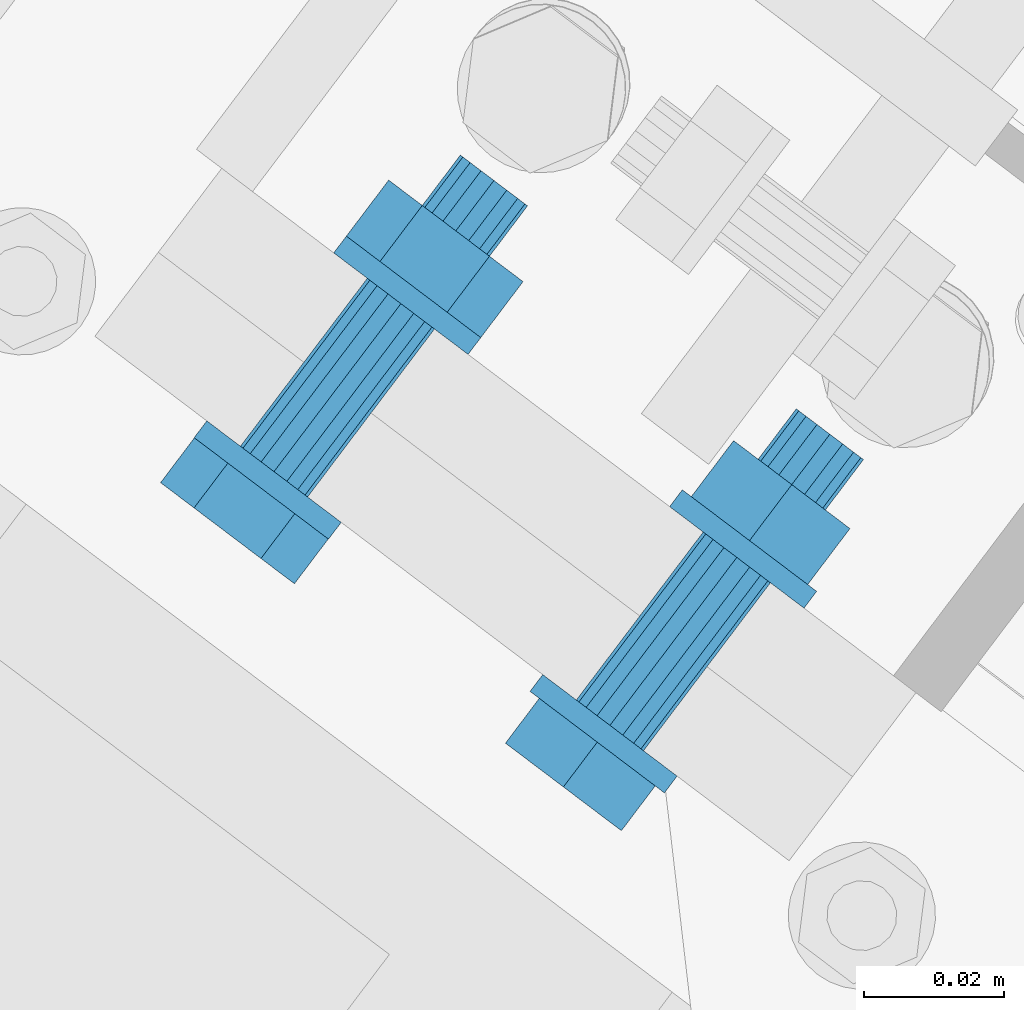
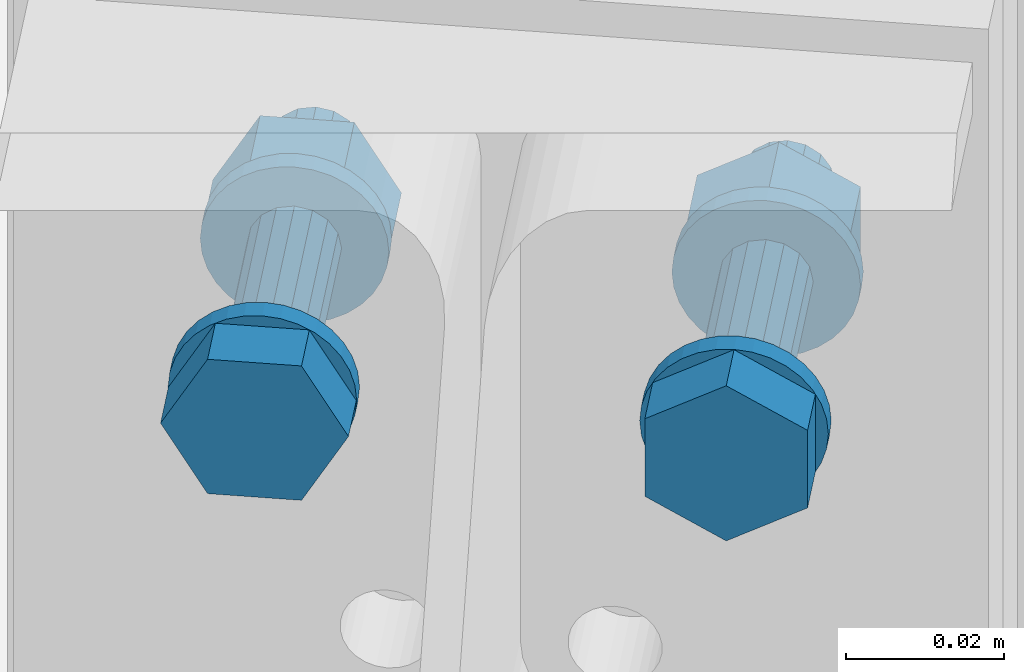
# One storey, part 371 of 476: 2 mechanical fasteners.
"""IFC2X3 building model written with IfcOpenShell, lengths in millimetres."""

from ifc_helpers import new_model, entity, si_unit, converted_unit, origin_with_axes, place, context, project, spatial, faceted_brep, element, save


model = new_model("IFC2X3")

# Units and contexts
model_context = context("Model", 3, precision=1e-09, world=origin_with_axes())
ifc_project = project(units=[si_unit("LENGTHUNIT", "METRE", prefix="MILLI"), si_unit("AREAUNIT", "SQUARE_METRE"), si_unit("VOLUMEUNIT", "CUBIC_METRE"), converted_unit("PLANEANGLEUNIT", "DEGREE", entity("IfcPlaneAngleMeasure", 0.01745329), si_unit("PLANEANGLEUNIT", "RADIAN"), dimensions=[0, 0, 0, 0, 0, 0, 0])], contexts=[model_context])

# Site, building, storey
site_placement = place(None, origin_with_axes())
site = spatial("IfcSite", under=ifc_project, at=site_placement, Name="mKR Teilneubau & Sanierung BA1 - Ostfildern", CompositionType="ELEMENT")
building_placement = place(site_placement, origin_with_axes())
building = spatial("IfcBuilding", under=site, at=building_placement, Name="Struktur 1", CompositionType="ELEMENT")
storey_placement = place(building_placement, origin_with_axes())
storey = spatial("IfcBuildingStorey", under=building, at=storey_placement, Name="Default Storey", CompositionType="ELEMENT", Elevation=0.0)

# Mechanical fasteners
mechanical_fastener_1_placement = place(None, origin_with_axes())
element("IfcMechanicalFastener", 1, at=mechanical_fastener_1_placement, inside=storey, ObjectType="Bolt#1", NominalDiameter=12.0, NominalLength=55.0, context=model_context, shape_type="Brep", body=[
    faceted_brep([(2276.850739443, 2694.008660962, 2912.000000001), (2278.658942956, 2696.402486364, 2912.000000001), (2278.842929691, 2696.263509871, 2909.658916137), (2277.034726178, 2693.869684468, 2909.658916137), (2279.387819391, 2695.851921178, 2907.407798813), (2277.579615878, 2693.458095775, 2907.407798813), (2280.272672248, 2695.183537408, 2905.333157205), (2278.464468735, 2692.789712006, 2905.333157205), (2281.463483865, 2694.284044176, 2903.514718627), (2279.655280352, 2691.890218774, 2903.514718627), (2282.914492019, 2693.188008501, 2902.022364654), (2281.106288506, 2690.794183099, 2902.022364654), (2284.569935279, 2691.93755042, 2900.913445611), (2282.761731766, 2689.543725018, 2900.913445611), (2286.36619589, 2690.580724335, 2900.230576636), (2284.557992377, 2688.186898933, 2900.230576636), (2288.234244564, 2689.169672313, 2900.000000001), (2286.426041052, 2686.775846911, 2900.000000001), (2290.102293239, 2687.758620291, 2900.230576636), (2288.294089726, 2685.364794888, 2900.230576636), (2291.89855385, 2686.401794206, 2900.913445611), (2290.090350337, 2684.007968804, 2900.913445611), (2293.55399711, 2685.151336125, 2902.022364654), (2291.745793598, 2682.757510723, 2902.022364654), (2295.005005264, 2684.05530045, 2903.514718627), (2293.196801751, 2681.661475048, 2903.514718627), (2296.195816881, 2683.155807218, 2905.333157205), (2294.387613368, 2680.761981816, 2905.333157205), (2297.080669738, 2682.487423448, 2907.407798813), (2295.272466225, 2680.093598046, 2907.407798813), (2297.625559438, 2682.075834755, 2909.658916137), (2295.817355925, 2679.682009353, 2909.658916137), (2297.809546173, 2681.936858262, 2912.000000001), (2296.00134266, 2679.543032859, 2912.000000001), (2297.625559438, 2682.075834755, 2914.341083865), (2295.817355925, 2679.682009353, 2914.341083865), (2297.080669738, 2682.487423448, 2916.59220119), (2295.272466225, 2680.093598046, 2916.59220119), (2296.195816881, 2683.155807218, 2918.666842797), (2294.387613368, 2680.761981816, 2918.666842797), (2295.005005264, 2684.05530045, 2920.485281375), (2293.196801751, 2681.661475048, 2920.485281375), (2293.55399711, 2685.151336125, 2921.977635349), (2291.745793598, 2682.757510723, 2921.977635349), (2291.89855385, 2686.401794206, 2923.086554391), (2290.090350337, 2684.007968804, 2923.086554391), (2290.102293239, 2687.758620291, 2923.769423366), (2288.294089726, 2685.364794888, 2923.769423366), (2288.234244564, 2689.169672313, 2924.000000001), (2286.426041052, 2686.775846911, 2924.000000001), (2286.36619589, 2690.580724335, 2923.769423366), (2284.557992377, 2688.186898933, 2923.769423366), (2284.569935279, 2691.93755042, 2923.086554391), (2282.761731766, 2689.543725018, 2923.086554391), (2282.914492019, 2693.188008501, 2921.977635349), (2281.106288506, 2690.794183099, 2921.977635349), (2281.463483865, 2694.284044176, 2920.485281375), (2279.655280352, 2691.890218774, 2920.485281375), (2280.272672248, 2695.183537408, 2918.666842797), (2278.464468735, 2692.789712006, 2918.666842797), (2279.387819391, 2695.851921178, 2916.59220119), (2277.579615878, 2693.458095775, 2916.59220119), (2278.842929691, 2696.263509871, 2914.341083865), (2277.034726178, 2693.869684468, 2914.341083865)], [[[0, 1, 2, 3]], [[3, 2, 4, 5]], [[5, 4, 6, 7]], [[7, 6, 8, 9]], [[9, 8, 10, 11]], [[11, 10, 12, 13]], [[13, 12, 14, 15]], [[15, 14, 16, 17]], [[17, 16, 18, 19]], [[19, 18, 20, 21]], [[21, 20, 22, 23]], [[23, 22, 24, 25]], [[25, 24, 26, 27]], [[27, 26, 28, 29]], [[29, 28, 30, 31]], [[31, 30, 32, 33]], [[33, 32, 34, 35]], [[35, 34, 36, 37]], [[37, 36, 38, 39]], [[39, 38, 40, 41]], [[41, 40, 42, 43]], [[43, 42, 44, 45]], [[45, 44, 46, 47]], [[47, 46, 48, 49]], [[49, 48, 50, 51]], [[51, 50, 52, 53]], [[53, 52, 54, 55]], [[55, 54, 56, 57]], [[57, 56, 58, 59]], [[59, 58, 60, 61]], [[61, 60, 62, 63]], [[63, 62, 1, 0]], [[0, 3, 5, 7, 9, 11, 13, 15, 17, 19, 21, 23, 25, 27, 29, 31, 33, 35, 37, 39, 41, 43, 45, 47, 49, 51, 53, 55, 57, 59, 61, 63]], [[1, 62, 60, 58, 56, 54, 52, 50, 48, 46, 44, 42, 40, 38, 36, 34, 32, 30, 28, 26, 24, 22, 20, 18, 16, 14, 12, 10, 8, 6, 4, 2]]]),
    faceted_brep([(2294.687398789, 2680.535535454, 2906.022500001), (2289.865522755, 2674.152001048, 2906.022500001), (2281.604165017, 2680.392312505, 2900.045000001), (2286.426041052, 2686.775846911, 2900.045000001), (2273.342807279, 2686.632623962, 2906.022500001), (2278.164683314, 2693.016158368, 2906.022500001), (2273.342807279, 2686.632623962, 2917.977500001), (2278.164683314, 2693.016158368, 2917.977500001), (2281.604165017, 2680.392312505, 2923.955000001), (2286.426041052, 2686.775846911, 2923.955000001), (2289.865522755, 2674.152001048, 2917.977500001), (2294.687398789, 2680.535535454, 2917.977500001)], [[[0, 1, 2, 3]], [[3, 2, 4, 5]], [[5, 4, 6, 7]], [[7, 6, 8, 9]], [[9, 8, 10, 11]], [[11, 10, 1, 0]], [[4, 2, 1, 10, 8, 6]], [[0, 3, 5, 7, 9, 11]]]),
    faceted_brep([(2283.44659376, 2692.786079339, 2912.000000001), (2301.528628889, 2716.72433336, 2912.000000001), (2301.893067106, 2716.449050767, 2909.703899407), (2283.811031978, 2692.510796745, 2909.703899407), (2302.930899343, 2715.665112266, 2907.757359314), (2284.848864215, 2691.726858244, 2907.757359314), (2304.48412505, 2714.491865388, 2906.456722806), (2286.402089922, 2690.553611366, 2906.456722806), (2306.316279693, 2713.107926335, 2906.000000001), (2288.234244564, 2689.169672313, 2906.000000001), (2308.148434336, 2711.723987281, 2906.456722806), (2290.066399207, 2687.78573326, 2906.456722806), (2309.701660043, 2710.550740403, 2907.757359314), (2291.619624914, 2686.612486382, 2907.757359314), (2310.73949228, 2709.766801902, 2909.703899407), (2292.657457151, 2685.828547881, 2909.703899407), (2311.103930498, 2709.491519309, 2912.000000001), (2293.021895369, 2685.553265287, 2912.000000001), (2310.73949228, 2709.766801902, 2914.296100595), (2292.657457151, 2685.828547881, 2914.296100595), (2309.701660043, 2710.550740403, 2916.242640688), (2291.619624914, 2686.612486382, 2916.242640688), (2308.148434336, 2711.723987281, 2917.543277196), (2290.066399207, 2687.78573326, 2917.543277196), (2306.316279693, 2713.107926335, 2918.000000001), (2288.234244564, 2689.169672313, 2918.000000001), (2304.48412505, 2714.491865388, 2917.543277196), (2286.402089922, 2690.553611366, 2917.543277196), (2302.930899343, 2715.665112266, 2916.242640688), (2284.848864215, 2691.726858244, 2916.242640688), (2301.893067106, 2716.449050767, 2914.296100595), (2283.811031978, 2692.510796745, 2914.296100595)], [[[0, 1, 2, 3]], [[3, 2, 4, 5]], [[5, 4, 6, 7]], [[7, 6, 8, 9]], [[9, 8, 10, 11]], [[11, 10, 12, 13]], [[13, 12, 14, 15]], [[15, 14, 16, 17]], [[17, 16, 18, 19]], [[19, 18, 20, 21]], [[21, 20, 22, 23]], [[23, 22, 24, 25]], [[25, 24, 26, 27]], [[27, 26, 28, 29]], [[29, 28, 30, 31]], [[31, 30, 1, 0]], [[0, 3, 5, 7, 9, 11, 13, 15, 17, 19, 21, 23, 25, 27, 29, 31]], [[1, 30, 28, 26, 24, 22, 20, 18, 16, 14, 12, 10, 8, 6, 4, 2]]]),
    faceted_brep([(2296.740978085, 2720.340740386, 2912.000000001), (2298.549181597, 2722.734565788, 2912.000000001), (2298.733168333, 2722.595589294, 2909.658916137), (2296.92496482, 2720.201763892, 2909.658916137), (2299.278058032, 2722.184000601, 2907.407798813), (2297.469854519, 2719.790175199, 2907.407798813), (2300.16291089, 2721.515616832, 2905.333157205), (2298.354707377, 2719.12179143, 2905.333157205), (2301.353722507, 2720.6161236, 2903.514718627), (2299.545518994, 2718.222298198, 2903.514718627), (2302.80473066, 2719.520087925, 2902.022364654), (2300.996527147, 2717.126262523, 2902.022364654), (2304.460173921, 2718.269629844, 2900.913445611), (2302.651970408, 2715.875804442, 2900.913445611), (2306.256434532, 2716.912803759, 2900.230576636), (2304.448231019, 2714.518978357, 2900.230576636), (2308.124483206, 2715.501751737, 2900.000000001), (2306.316279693, 2713.107926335, 2900.000000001), (2309.99253188, 2714.090699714, 2900.230576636), (2308.184328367, 2711.696874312, 2900.230576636), (2311.788792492, 2712.73387363, 2900.913445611), (2309.980588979, 2710.340048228, 2900.913445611), (2313.444235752, 2711.483415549, 2902.022364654), (2311.636032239, 2709.089590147, 2902.022364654), (2314.895243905, 2710.387379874, 2903.514718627), (2313.087040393, 2707.993554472, 2903.514718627), (2316.086055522, 2709.487886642, 2905.333157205), (2314.277852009, 2707.094061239, 2905.333157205), (2316.97090838, 2708.819502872, 2907.407798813), (2315.162704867, 2706.42567747, 2907.407798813), (2317.515798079, 2708.407914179, 2909.658916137), (2315.707594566, 2706.014088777, 2909.658916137), (2317.699784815, 2708.268937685, 2912.000000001), (2315.891581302, 2705.875112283, 2912.000000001), (2317.515798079, 2708.407914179, 2914.341083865), (2315.707594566, 2706.014088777, 2914.341083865), (2316.97090838, 2708.819502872, 2916.59220119), (2315.162704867, 2706.42567747, 2916.59220119), (2316.086055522, 2709.487886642, 2918.666842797), (2314.277852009, 2707.094061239, 2918.666842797), (2314.895243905, 2710.387379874, 2920.485281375), (2313.087040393, 2707.993554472, 2920.485281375), (2313.444235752, 2711.483415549, 2921.977635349), (2311.636032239, 2709.089590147, 2921.977635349), (2311.788792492, 2712.73387363, 2923.086554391), (2309.980588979, 2710.340048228, 2923.086554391), (2309.99253188, 2714.090699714, 2923.769423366), (2308.184328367, 2711.696874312, 2923.769423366), (2308.124483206, 2715.501751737, 2924.000000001), (2306.316279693, 2713.107926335, 2924.000000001), (2306.256434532, 2716.912803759, 2923.769423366), (2304.448231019, 2714.518978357, 2923.769423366), (2304.460173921, 2718.269629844, 2923.086554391), (2302.651970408, 2715.875804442, 2923.086554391), (2302.80473066, 2719.520087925, 2921.977635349), (2300.996527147, 2717.126262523, 2921.977635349), (2301.353722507, 2720.6161236, 2920.485281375), (2299.545518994, 2718.222298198, 2920.485281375), (2300.16291089, 2721.515616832, 2918.666842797), (2298.354707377, 2719.12179143, 2918.666842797), (2299.278058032, 2722.184000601, 2916.59220119), (2297.469854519, 2719.790175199, 2916.59220119), (2298.733168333, 2722.595589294, 2914.341083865), (2296.92496482, 2720.201763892, 2914.341083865)], [[[0, 1, 2, 3]], [[3, 2, 4, 5]], [[5, 4, 6, 7]], [[7, 6, 8, 9]], [[9, 8, 10, 11]], [[11, 10, 12, 13]], [[13, 12, 14, 15]], [[15, 14, 16, 17]], [[17, 16, 18, 19]], [[19, 18, 20, 21]], [[21, 20, 22, 23]], [[23, 22, 24, 25]], [[25, 24, 26, 27]], [[27, 26, 28, 29]], [[29, 28, 30, 31]], [[31, 30, 32, 33]], [[33, 32, 34, 35]], [[35, 34, 36, 37]], [[37, 36, 38, 39]], [[39, 38, 40, 41]], [[41, 40, 42, 43]], [[43, 42, 44, 45]], [[45, 44, 46, 47]], [[47, 46, 48, 49]], [[49, 48, 50, 51]], [[51, 50, 52, 53]], [[53, 52, 54, 55]], [[55, 54, 56, 57]], [[57, 56, 58, 59]], [[59, 58, 60, 61]], [[61, 60, 62, 63]], [[63, 62, 1, 0]], [[0, 3, 5, 7, 9, 11, 13, 15, 17, 19, 21, 23, 25, 27, 29, 31, 33, 35, 37, 39, 41, 43, 45, 47, 49, 51, 53, 55, 57, 59, 61, 63]], [[1, 62, 60, 58, 56, 54, 52, 50, 48, 46, 44, 42, 40, 38, 36, 34, 32, 30, 28, 26, 24, 22, 20, 18, 16, 14, 12, 10, 8, 6, 4, 2]]]),
    faceted_brep([(2322.444282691, 2717.217369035, 2906.000000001), (2316.416937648, 2709.237951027, 2906.000000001), (2308.124483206, 2715.501751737, 2900.000000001), (2314.151828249, 2723.481169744, 2900.000000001), (2299.832028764, 2721.765552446, 2906.000000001), (2305.859373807, 2729.744970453, 2906.000000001), (2299.832028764, 2721.765552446, 2918.000000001), (2305.859373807, 2729.744970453, 2918.000000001), (2308.124483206, 2715.501751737, 2924.000000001), (2314.151828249, 2723.481169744, 2924.000000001), (2316.416937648, 2709.237951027, 2918.000000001), (2322.444282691, 2717.217369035, 2918.000000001)], [[[0, 1, 2, 3]], [[3, 2, 4, 5]], [[5, 4, 6, 7]], [[7, 6, 8, 9]], [[9, 8, 10, 11]], [[11, 10, 1, 0]], [[4, 2, 1, 10, 8, 6]], [[0, 3, 5, 7, 9, 11]]]),
    faceted_brep([(2309.364177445, 2727.09757677, 2912.000000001), (2314.788787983, 2734.279052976, 2912.000000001), (2315.153226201, 2734.003770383, 2909.703899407), (2309.728615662, 2726.822294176, 2909.703899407), (2316.191058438, 2733.219831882, 2907.757359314), (2310.766447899, 2726.038355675, 2907.757359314), (2317.744284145, 2732.046585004, 2906.456722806), (2312.319673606, 2724.865108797, 2906.456722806), (2319.576438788, 2730.662645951, 2906.000000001), (2314.151828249, 2723.481169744, 2906.000000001), (2321.40859343, 2729.278706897, 2906.456722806), (2315.983982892, 2722.097230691, 2906.456722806), (2322.961819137, 2728.105460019, 2907.757359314), (2317.537208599, 2720.923983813, 2907.757359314), (2323.999651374, 2727.321521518, 2909.703899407), (2318.575040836, 2720.140045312, 2909.703899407), (2324.364089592, 2727.046238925, 2912.000000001), (2318.939479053, 2719.864762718, 2912.000000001), (2323.999651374, 2727.321521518, 2914.296100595), (2318.575040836, 2720.140045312, 2914.296100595), (2322.961819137, 2728.105460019, 2916.242640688), (2317.537208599, 2720.923983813, 2916.242640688), (2321.40859343, 2729.278706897, 2917.543277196), (2315.983982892, 2722.097230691, 2917.543277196), (2319.576438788, 2730.662645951, 2918.000000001), (2314.151828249, 2723.481169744, 2918.000000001), (2317.744284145, 2732.046585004, 2917.543277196), (2312.319673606, 2724.865108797, 2917.543277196), (2316.191058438, 2733.219831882, 2916.242640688), (2310.766447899, 2726.038355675, 2916.242640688), (2315.153226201, 2734.003770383, 2914.296100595), (2309.728615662, 2726.822294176, 2914.296100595)], [[[0, 1, 2, 3]], [[3, 2, 4, 5]], [[5, 4, 6, 7]], [[7, 6, 8, 9]], [[9, 8, 10, 11]], [[11, 10, 12, 13]], [[13, 12, 14, 15]], [[15, 14, 16, 17]], [[17, 16, 18, 19]], [[19, 18, 20, 21]], [[21, 20, 22, 23]], [[23, 22, 24, 25]], [[25, 24, 26, 27]], [[27, 26, 28, 29]], [[29, 28, 30, 31]], [[31, 30, 1, 0]], [[0, 3, 5, 7, 9, 11, 13, 15, 17, 19, 21, 23, 25, 27, 29, 31]], [[1, 30, 28, 26, 24, 22, 20, 18, 16, 14, 12, 10, 8, 6, 4, 2]]]),
])
mechanical_fastener_2_placement = place(None, origin_with_axes())
element("IfcMechanicalFastener", 2, at=mechanical_fastener_2_placement, inside=storey, ObjectType="Bolt#2", NominalDiameter=12.0, NominalLength=55.0, context=model_context, shape_type="Brep", body=[
    faceted_brep([(2238.549533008, 2722.939917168, 2900.000000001), (2240.357736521, 2725.33374257, 2900.000000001), (2242.225785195, 2723.922690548, 2900.230576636), (2240.417581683, 2721.528865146, 2900.230576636), (2244.022045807, 2722.565864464, 2900.913445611), (2242.213842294, 2720.172039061, 2900.913445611), (2245.677489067, 2721.315406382, 2902.022364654), (2243.869285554, 2718.92158098, 2902.022364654), (2247.128497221, 2720.219370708, 2903.514718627), (2245.320293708, 2717.825545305, 2903.514718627), (2248.319308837, 2719.319877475, 2905.333157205), (2246.511105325, 2716.926052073, 2905.333157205), (2249.204161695, 2718.651493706, 2907.407798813), (2247.395958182, 2716.257668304, 2907.407798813), (2249.749051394, 2718.239905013, 2909.658916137), (2247.940847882, 2715.846079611, 2909.658916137), (2249.93303813, 2718.100928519, 2912.000000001), (2248.124834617, 2715.707103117, 2912.000000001), (2249.749051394, 2718.239905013, 2914.341083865), (2247.940847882, 2715.846079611, 2914.341083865), (2249.204161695, 2718.651493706, 2916.59220119), (2247.395958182, 2716.257668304, 2916.59220119), (2248.319308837, 2719.319877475, 2918.666842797), (2246.511105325, 2716.926052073, 2918.666842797), (2247.128497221, 2720.219370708, 2920.485281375), (2245.320293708, 2717.825545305, 2920.485281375), (2245.677489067, 2721.315406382, 2921.977635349), (2243.869285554, 2718.92158098, 2921.977635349), (2244.022045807, 2722.565864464, 2923.086554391), (2242.213842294, 2720.172039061, 2923.086554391), (2242.225785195, 2723.922690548, 2923.769423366), (2240.417581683, 2721.528865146, 2923.769423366), (2240.357736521, 2725.33374257, 2924.000000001), (2238.549533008, 2722.939917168, 2924.000000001), (2238.489687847, 2726.744794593, 2923.769423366), (2236.681484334, 2724.350969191, 2923.769423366), (2236.693427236, 2728.101620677, 2923.086554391), (2234.885223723, 2725.707795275, 2923.086554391), (2235.037983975, 2729.352078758, 2921.977635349), (2233.229780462, 2726.958253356, 2921.977635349), (2233.586975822, 2730.448114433, 2920.485281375), (2231.778772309, 2728.054289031, 2920.485281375), (2232.396164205, 2731.347607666, 2918.666842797), (2230.587960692, 2728.953782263, 2918.666842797), (2231.511311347, 2732.015991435, 2916.59220119), (2229.703107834, 2729.622166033, 2916.59220119), (2230.966421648, 2732.427580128, 2914.341083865), (2229.158218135, 2730.033754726, 2914.341083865), (2230.782434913, 2732.566556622, 2912.000000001), (2228.9742314, 2730.17273122, 2912.000000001), (2230.966421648, 2732.427580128, 2909.658916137), (2229.158218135, 2730.033754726, 2909.658916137), (2231.511311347, 2732.015991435, 2907.407798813), (2229.703107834, 2729.622166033, 2907.407798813), (2232.396164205, 2731.347607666, 2905.333157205), (2230.587960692, 2728.953782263, 2905.333157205), (2233.586975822, 2730.448114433, 2903.514718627), (2231.778772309, 2728.054289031, 2903.514718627), (2235.037983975, 2729.352078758, 2902.022364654), (2233.229780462, 2726.958253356, 2902.022364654), (2236.693427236, 2728.101620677, 2900.913445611), (2234.885223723, 2725.707795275, 2900.913445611), (2238.489687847, 2726.744794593, 2900.230576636), (2236.681484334, 2724.350969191, 2900.230576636)], [[[0, 1, 2, 3]], [[3, 2, 4, 5]], [[5, 4, 6, 7]], [[7, 6, 8, 9]], [[9, 8, 10, 11]], [[11, 10, 12, 13]], [[13, 12, 14, 15]], [[15, 14, 16, 17]], [[17, 16, 18, 19]], [[19, 18, 20, 21]], [[21, 20, 22, 23]], [[23, 22, 24, 25]], [[25, 24, 26, 27]], [[27, 26, 28, 29]], [[29, 28, 30, 31]], [[31, 30, 32, 33]], [[33, 32, 34, 35]], [[35, 34, 36, 37]], [[37, 36, 38, 39]], [[39, 38, 40, 41]], [[41, 40, 42, 43]], [[43, 42, 44, 45]], [[45, 44, 46, 47]], [[47, 46, 48, 49]], [[49, 48, 50, 51]], [[51, 50, 52, 53]], [[53, 52, 54, 55]], [[55, 54, 56, 57]], [[57, 56, 58, 59]], [[59, 58, 60, 61]], [[61, 60, 62, 63]], [[63, 62, 1, 0]], [[0, 3, 5, 7, 9, 11, 13, 15, 17, 19, 21, 23, 25, 27, 29, 31, 33, 35, 37, 39, 41, 43, 45, 47, 49, 51, 53, 55, 57, 59, 61, 63]], [[1, 62, 60, 58, 56, 54, 52, 50, 48, 46, 44, 42, 40, 38, 36, 34, 32, 30, 28, 26, 24, 22, 20, 18, 16, 14, 12, 10, 8, 6, 4, 2]]]),
    faceted_brep([(2243.319230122, 2719.337071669, 2922.353333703), (2238.497354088, 2712.953537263, 2922.353333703), (2243.267051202, 2709.350691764, 2912.000000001), (2248.088927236, 2715.734226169, 2912.000000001), (2238.497354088, 2712.953537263, 2901.646666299), (2243.319230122, 2719.337071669, 2901.646666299), (2228.95795986, 2720.159228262, 2901.646666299), (2233.779835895, 2726.542762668, 2901.646666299), (2224.188262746, 2723.762073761, 2912.000000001), (2229.010138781, 2730.145608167, 2912.000000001), (2228.95795986, 2720.159228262, 2922.353333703), (2233.779835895, 2726.542762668, 2922.353333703)], [[[0, 1, 2, 3]], [[3, 2, 4, 5]], [[5, 4, 6, 7]], [[7, 6, 8, 9]], [[9, 8, 10, 11]], [[11, 10, 1, 0]], [[4, 2, 1, 10, 8, 6]], [[0, 3, 5, 7, 9, 11]]]),
    faceted_brep([(2240.357736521, 2725.33374257, 2906.000000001), (2258.43977165, 2749.271996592, 2906.000000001), (2260.271926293, 2747.888057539, 2906.456722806), (2242.189891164, 2723.949803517, 2906.456722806), (2261.825152, 2746.714810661, 2907.757359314), (2243.743116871, 2722.776556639, 2907.757359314), (2262.862984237, 2745.93087216, 2909.703899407), (2244.780949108, 2721.992618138, 2909.703899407), (2263.227422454, 2745.655589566, 2912.000000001), (2245.145387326, 2721.717335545, 2912.000000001), (2262.862984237, 2745.93087216, 2914.296100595), (2244.780949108, 2721.992618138, 2914.296100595), (2261.825152, 2746.714810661, 2916.242640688), (2243.743116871, 2722.776556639, 2916.242640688), (2260.271926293, 2747.888057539, 2917.543277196), (2242.189891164, 2723.949803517, 2917.543277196), (2258.43977165, 2749.271996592, 2918.000000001), (2240.357736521, 2725.33374257, 2918.000000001), (2256.607617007, 2750.655935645, 2917.543277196), (2238.525581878, 2726.717681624, 2917.543277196), (2255.0543913, 2751.829182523, 2916.242640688), (2236.972356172, 2727.890928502, 2916.242640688), (2254.016559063, 2752.613121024, 2914.296100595), (2235.934523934, 2728.674867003, 2914.296100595), (2253.652120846, 2752.888403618, 2912.000000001), (2235.570085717, 2728.950149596, 2912.000000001), (2254.016559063, 2752.613121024, 2909.703899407), (2235.934523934, 2728.674867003, 2909.703899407), (2255.0543913, 2751.829182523, 2907.757359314), (2236.972356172, 2727.890928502, 2907.757359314), (2256.607617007, 2750.655935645, 2906.456722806), (2238.525581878, 2726.717681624, 2906.456722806)], [[[0, 1, 2, 3]], [[3, 2, 4, 5]], [[5, 4, 6, 7]], [[7, 6, 8, 9]], [[9, 8, 10, 11]], [[11, 10, 12, 13]], [[13, 12, 14, 15]], [[15, 14, 16, 17]], [[17, 16, 18, 19]], [[19, 18, 20, 21]], [[21, 20, 22, 23]], [[23, 22, 24, 25]], [[25, 24, 26, 27]], [[27, 26, 28, 29]], [[29, 28, 30, 31]], [[31, 30, 1, 0]], [[0, 3, 5, 7, 9, 11, 13, 15, 17, 19, 21, 23, 25, 27, 29, 31]], [[1, 30, 28, 26, 24, 22, 20, 18, 16, 14, 12, 10, 8, 6, 4, 2]]]),
    faceted_brep([(2258.43977165, 2749.271996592, 2900.000000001), (2260.247975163, 2751.665821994, 2900.000000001), (2262.116023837, 2750.254769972, 2900.230576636), (2260.307820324, 2747.86094457, 2900.230576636), (2263.912284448, 2748.897943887, 2900.913445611), (2262.104080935, 2746.504118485, 2900.913445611), (2265.567727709, 2747.647485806, 2902.022364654), (2263.759524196, 2745.253660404, 2902.022364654), (2267.018735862, 2746.551450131, 2903.514718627), (2265.210532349, 2744.157624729, 2903.514718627), (2268.209547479, 2745.651956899, 2905.333157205), (2266.401343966, 2743.258131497, 2905.333157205), (2269.094400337, 2744.98357313, 2907.407798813), (2267.286196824, 2742.589747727, 2907.407798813), (2269.639290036, 2744.571984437, 2909.658916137), (2267.831086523, 2742.178159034, 2909.658916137), (2269.823276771, 2744.433007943, 2912.000000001), (2268.015073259, 2742.039182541, 2912.000000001), (2269.639290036, 2744.571984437, 2914.341083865), (2267.831086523, 2742.178159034, 2914.341083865), (2269.094400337, 2744.98357313, 2916.59220119), (2267.286196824, 2742.589747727, 2916.59220119), (2268.209547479, 2745.651956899, 2918.666842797), (2266.401343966, 2743.258131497, 2918.666842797), (2267.018735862, 2746.551450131, 2920.485281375), (2265.210532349, 2744.157624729, 2920.485281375), (2265.567727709, 2747.647485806, 2921.977635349), (2263.759524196, 2745.253660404, 2921.977635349), (2263.912284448, 2748.897943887, 2923.086554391), (2262.104080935, 2746.504118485, 2923.086554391), (2262.116023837, 2750.254769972, 2923.769423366), (2260.307820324, 2747.86094457, 2923.769423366), (2260.247975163, 2751.665821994, 2924.000000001), (2258.43977165, 2749.271996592, 2924.000000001), (2258.379926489, 2753.076874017, 2923.769423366), (2256.571722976, 2750.683048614, 2923.769423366), (2256.583665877, 2754.433700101, 2923.086554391), (2254.775462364, 2752.039874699, 2923.086554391), (2254.928222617, 2755.684158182, 2921.977635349), (2253.120019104, 2753.29033278, 2921.977635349), (2253.477214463, 2756.780193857, 2920.485281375), (2251.669010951, 2754.386368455, 2920.485281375), (2252.286402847, 2757.679687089, 2918.666842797), (2250.478199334, 2755.285861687, 2918.666842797), (2251.401549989, 2758.348070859, 2916.59220119), (2249.593346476, 2755.954245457, 2916.59220119), (2250.85666029, 2758.759659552, 2914.341083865), (2249.048456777, 2756.36583415, 2914.341083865), (2250.672673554, 2758.898636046, 2912.000000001), (2248.864470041, 2756.504810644, 2912.000000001), (2250.85666029, 2758.759659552, 2909.658916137), (2249.048456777, 2756.36583415, 2909.658916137), (2251.401549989, 2758.348070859, 2907.407798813), (2249.593346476, 2755.954245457, 2907.407798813), (2252.286402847, 2757.679687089, 2905.333157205), (2250.478199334, 2755.285861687, 2905.333157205), (2253.477214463, 2756.780193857, 2903.514718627), (2251.669010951, 2754.386368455, 2903.514718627), (2254.928222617, 2755.684158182, 2902.022364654), (2253.120019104, 2753.29033278, 2902.022364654), (2256.583665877, 2754.433700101, 2900.913445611), (2254.775462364, 2752.039874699, 2900.913445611), (2258.379926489, 2753.076874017, 2900.230576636), (2256.571722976, 2750.683048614, 2900.230576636)], [[[0, 1, 2, 3]], [[3, 2, 4, 5]], [[5, 4, 6, 7]], [[7, 6, 8, 9]], [[9, 8, 10, 11]], [[11, 10, 12, 13]], [[13, 12, 14, 15]], [[15, 14, 16, 17]], [[17, 16, 18, 19]], [[19, 18, 20, 21]], [[21, 20, 22, 23]], [[23, 22, 24, 25]], [[25, 24, 26, 27]], [[27, 26, 28, 29]], [[29, 28, 30, 31]], [[31, 30, 32, 33]], [[33, 32, 34, 35]], [[35, 34, 36, 37]], [[37, 36, 38, 39]], [[39, 38, 40, 41]], [[41, 40, 42, 43]], [[43, 42, 44, 45]], [[45, 44, 46, 47]], [[47, 46, 48, 49]], [[49, 48, 50, 51]], [[51, 50, 52, 53]], [[53, 52, 54, 55]], [[55, 54, 56, 57]], [[57, 56, 58, 59]], [[59, 58, 60, 61]], [[61, 60, 62, 63]], [[63, 62, 1, 0]], [[0, 3, 5, 7, 9, 11, 13, 15, 17, 19, 21, 23, 25, 27, 29, 31, 33, 35, 37, 39, 41, 43, 45, 47, 49, 51, 53, 55, 57, 59, 61, 63]], [[1, 62, 60, 58, 56, 54, 52, 50, 48, 46, 44, 42, 40, 38, 36, 34, 32, 30, 28, 26, 24, 22, 20, 18, 16, 14, 12, 10, 8, 6, 4, 2]]]),
    faceted_brep([(2271.06297101, 2756.028832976, 2922.392304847), (2265.035625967, 2748.049414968, 2922.392304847), (2269.823276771, 2744.433007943, 2912.000000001), (2275.850621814, 2752.41242595, 2912.000000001), (2265.035625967, 2748.049414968, 2901.607695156), (2271.06297101, 2756.028832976, 2901.607695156), (2255.460324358, 2755.28222902, 2901.607695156), (2261.487669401, 2763.261647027, 2901.607695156), (2250.672673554, 2758.898636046, 2912.000000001), (2256.700018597, 2766.878054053, 2912.000000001), (2255.460324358, 2755.28222902, 2922.392304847), (2261.487669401, 2763.261647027, 2922.392304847)], [[[0, 1, 2, 3]], [[3, 2, 4, 5]], [[5, 4, 6, 7]], [[7, 6, 8, 9]], [[9, 8, 10, 11]], [[11, 10, 1, 0]], [[4, 2, 1, 10, 8, 6]], [[0, 3, 5, 7, 9, 11]]]),
    faceted_brep([(2266.275320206, 2759.645240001, 2906.000000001), (2271.699930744, 2766.826716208, 2906.000000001), (2273.532085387, 2765.442777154, 2906.456722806), (2268.107474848, 2758.261300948, 2906.456722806), (2275.085311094, 2764.269530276, 2907.757359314), (2269.660700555, 2757.08805407, 2907.757359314), (2276.123143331, 2763.485591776, 2909.703899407), (2270.698532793, 2756.304115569, 2909.703899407), (2276.487581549, 2763.210309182, 2912.000000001), (2271.06297101, 2756.028832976, 2912.000000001), (2276.123143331, 2763.485591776, 2914.296100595), (2270.698532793, 2756.304115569, 2914.296100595), (2275.085311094, 2764.269530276, 2916.242640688), (2269.660700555, 2757.08805407, 2916.242640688), (2273.532085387, 2765.442777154, 2917.543277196), (2268.107474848, 2758.261300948, 2917.543277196), (2271.699930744, 2766.826716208, 2918.000000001), (2266.275320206, 2759.645240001, 2918.000000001), (2269.867776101, 2768.210655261, 2917.543277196), (2264.443165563, 2761.029179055, 2917.543277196), (2268.314550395, 2769.383902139, 2916.242640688), (2262.889939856, 2762.202425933, 2916.242640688), (2267.276718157, 2770.16784064, 2914.296100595), (2261.852107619, 2762.986364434, 2914.296100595), (2266.91227994, 2770.443123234, 2912.000000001), (2261.487669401, 2763.261647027, 2912.000000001), (2267.276718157, 2770.16784064, 2909.703899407), (2261.852107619, 2762.986364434, 2909.703899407), (2268.314550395, 2769.383902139, 2907.757359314), (2262.889939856, 2762.202425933, 2907.757359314), (2269.867776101, 2768.210655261, 2906.456722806), (2264.443165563, 2761.029179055, 2906.456722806)], [[[0, 1, 2, 3]], [[3, 2, 4, 5]], [[5, 4, 6, 7]], [[7, 6, 8, 9]], [[9, 8, 10, 11]], [[11, 10, 12, 13]], [[13, 12, 14, 15]], [[15, 14, 16, 17]], [[17, 16, 18, 19]], [[19, 18, 20, 21]], [[21, 20, 22, 23]], [[23, 22, 24, 25]], [[25, 24, 26, 27]], [[27, 26, 28, 29]], [[29, 28, 30, 31]], [[31, 30, 1, 0]], [[0, 3, 5, 7, 9, 11, 13, 15, 17, 19, 21, 23, 25, 27, 29, 31]], [[1, 30, 28, 26, 24, 22, 20, 18, 16, 14, 12, 10, 8, 6, 4, 2]]]),
])

save(model, "model.ifc")
